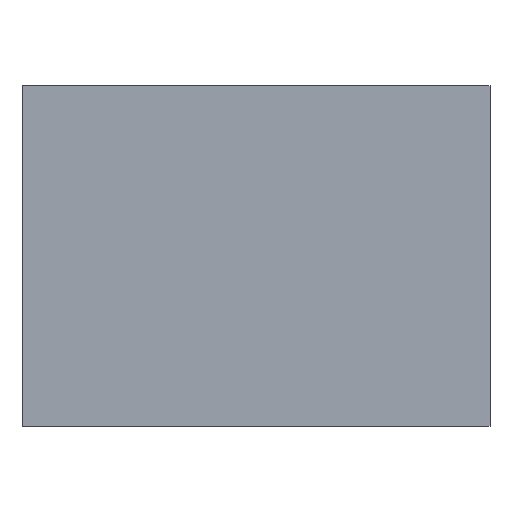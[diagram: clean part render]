
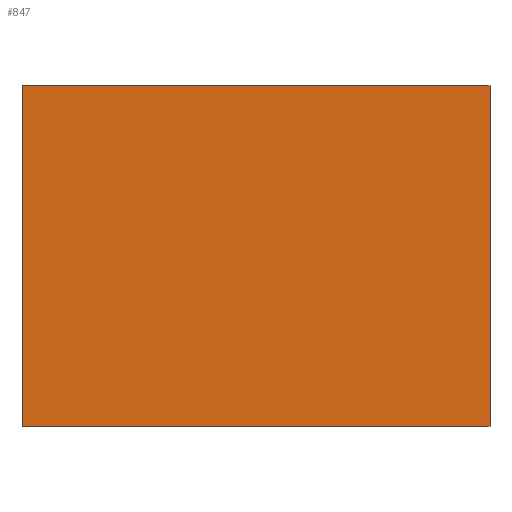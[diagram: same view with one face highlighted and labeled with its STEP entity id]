
A CAD part, front view. The second image highlights one B-rep face of the part: STEP entity #847.
In plain terms, the highlighted planar face has unit normal (0, -1, 0).
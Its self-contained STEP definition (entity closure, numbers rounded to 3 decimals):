
#5 = ORIENTED_EDGE ( 'NONE', *, *, #900, .T. ) ;
#58 = VECTOR ( 'NONE', #497, 1000. ) ;
#91 = CARTESIAN_POINT ( 'NONE',  ( 55., -20., -20. ) ) ;
#131 = EDGE_LOOP ( 'NONE', ( #486, #553, #378, #5 ) ) ;
#213 = DIRECTION ( 'NONE',  ( 1., 0., 0. ) ) ;
#230 = LINE ( 'NONE', #585, #58 ) ;
#266 = LINE ( 'NONE', #615, #306 ) ;
#306 = VECTOR ( 'NONE', #803, 1000. ) ;
#359 = VERTEX_POINT ( 'NONE', #852 ) ;
#378 = ORIENTED_EDGE ( 'NONE', *, *, #867, .F. ) ;
#432 = FACE_OUTER_BOUND ( 'NONE', #131, .T. ) ;
#483 = DIRECTION ( 'NONE',  ( 0., 0., -1. ) ) ;
#486 = ORIENTED_EDGE ( 'NONE', *, *, #1156, .T. ) ;
#489 = VECTOR ( 'NONE', #483, 1000. ) ;
#497 = DIRECTION ( 'NONE',  ( 1., 0., 0. ) ) ;
#547 = DIRECTION ( 'NONE',  ( 0., 1., 0. ) ) ;
#553 = ORIENTED_EDGE ( 'NONE', *, *, #656, .F. ) ;
#559 = LINE ( 'NONE', #933, #489 ) ;
#566 = LINE ( 'NONE', #740, #1111 ) ;
#585 = CARTESIAN_POINT ( 'NONE',  ( 0., -20., -20. ) ) ;
#589 = CARTESIAN_POINT ( 'NONE',  ( 0., -20., 20. ) ) ;
#615 = CARTESIAN_POINT ( 'NONE',  ( 55., -20., 20. ) ) ;
#656 = EDGE_CURVE ( 'NONE', #931, #1017, #266, .T. ) ;
#668 = AXIS2_PLACEMENT_3D ( 'NONE', #674, #547, #1024 ) ;
#674 = CARTESIAN_POINT ( 'NONE',  ( 0., -20., 20. ) ) ;
#740 = CARTESIAN_POINT ( 'NONE',  ( 0., -20., 20. ) ) ;
#803 = DIRECTION ( 'NONE',  ( 0., 0., -1. ) ) ;
#834 = CARTESIAN_POINT ( 'NONE',  ( 55., -20., 20. ) ) ;
#847 = ADVANCED_FACE ( 'NONE', ( #432 ), #1001, .F. ) ;
#852 = CARTESIAN_POINT ( 'NONE',  ( 0., -20., -20. ) ) ;
#867 = EDGE_CURVE ( 'NONE', #1181, #931, #566, .T. ) ;
#900 = EDGE_CURVE ( 'NONE', #1181, #359, #559, .T. ) ;
#931 = VERTEX_POINT ( 'NONE', #834 ) ;
#933 = CARTESIAN_POINT ( 'NONE',  ( 0., -20., 20. ) ) ;
#1001 = PLANE ( 'NONE',  #668 ) ;
#1017 = VERTEX_POINT ( 'NONE', #91 ) ;
#1024 = DIRECTION ( 'NONE',  ( 0., 0., 1. ) ) ;
#1111 = VECTOR ( 'NONE', #213, 1000. ) ;
#1156 = EDGE_CURVE ( 'NONE', #359, #1017, #230, .T. ) ;
#1181 = VERTEX_POINT ( 'NONE', #589 ) ;
